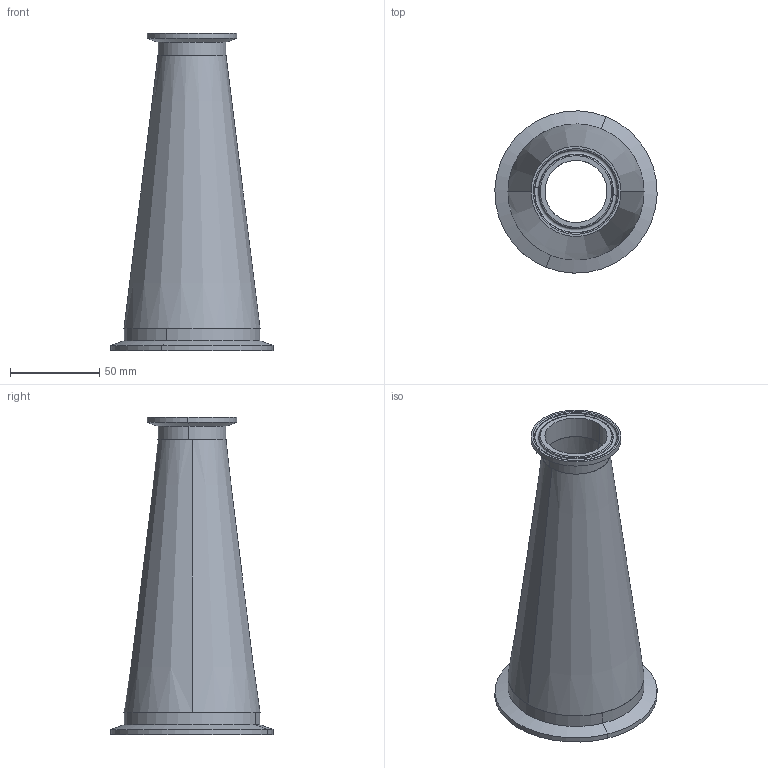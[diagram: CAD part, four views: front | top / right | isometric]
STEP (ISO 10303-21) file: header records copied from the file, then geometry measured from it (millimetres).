
FILE_DESCRIPTION (( 'STEP AP203' ), '1' );
FILE_NAME ('EG31CC 3.0X1.5.STEP', '2021-07-21T18:23:06', ( '' ), ( '' ), 'SwSTEP 2.0', 'SolidWorks 2021', '' );
FILE_SCHEMA (( 'CONFIG_CONTROL_DESIGN' ));
Length unit declared in the file: inch
Products named in the file (4): EG31CC 3.0X1.5; E31WW3.0x1.5; EG2CS1.5; EG2CS3.0
Assembly tree (3 placements, depth 2):
  EG31CC 3.0X1.5
    E31WW3.0x1.5
    EG2CS3.0
    EG2CS1.5
Bounding box: 90.86 x 90.86 x 177.8 mm (x, y, z)
Volume: 61752.9 mm3; surface area: 69677.4 mm2
Topology: 3 solids, 3 shells, 44 faces, 88 edges, 52 vertices
Faces by surface type: cone 12, cylinder 12, torus 12, plane 8
Entity records: 1590 total; most frequent: DIRECTION 252, CARTESIAN_POINT 190, ORIENTED_EDGE 176, AXIS2_PLACEMENT_3D 114, EDGE_CURVE 88, CIRCLE 64, EDGE_LOOP 52, VERTEX_POINT 52
